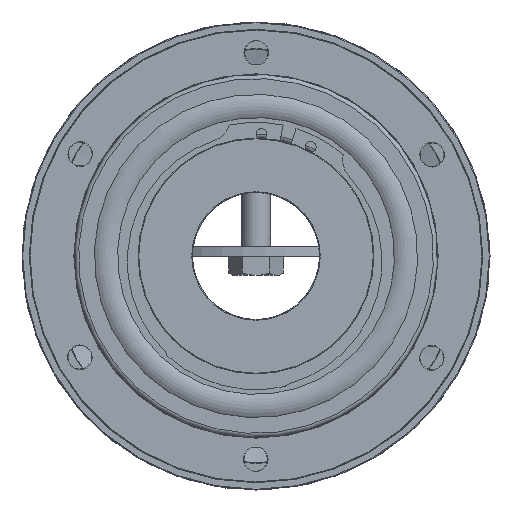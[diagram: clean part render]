
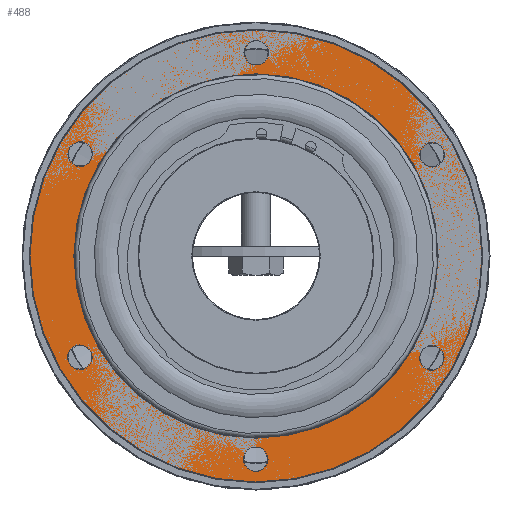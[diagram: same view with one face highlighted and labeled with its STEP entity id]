
A CAD part, left-side view. The second image highlights one B-rep face of the part: STEP entity #488.
In plain terms, the highlighted planar face has unit normal (-1, 0, 0).
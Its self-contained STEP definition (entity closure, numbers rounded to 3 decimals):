
#488 = ADVANCED_FACE( '', ( #973, #974, #975, #976, #977, #978, #979, #980 ), #981, .F. );
#973 = FACE_OUTER_BOUND( '', #1490, .T. );
#974 = FACE_BOUND( '', #1491, .T. );
#975 = FACE_BOUND( '', #1492, .T. );
#976 = FACE_BOUND( '', #1493, .T. );
#977 = FACE_BOUND( '', #1494, .T. );
#978 = FACE_BOUND( '', #1495, .T. );
#979 = FACE_BOUND( '', #1496, .T. );
#980 = FACE_BOUND( '', #1497, .T. );
#981 = PLANE( '', #1498 );
#1490 = EDGE_LOOP( '', ( #2543 ) );
#1491 = EDGE_LOOP( '', ( #2544 ) );
#1492 = EDGE_LOOP( '', ( #2545 ) );
#1493 = EDGE_LOOP( '', ( #2546 ) );
#1494 = EDGE_LOOP( '', ( #2547 ) );
#1495 = EDGE_LOOP( '', ( #2548 ) );
#1496 = EDGE_LOOP( '', ( #2549 ) );
#1497 = EDGE_LOOP( '', ( #2550 ) );
#1498 = AXIS2_PLACEMENT_3D( '', #2551, #2552, #2553 );
#2543 = ORIENTED_EDGE( '', *, *, #2883, .T. );
#2544 = ORIENTED_EDGE( '', *, *, #2884, .T. );
#2545 = ORIENTED_EDGE( '', *, *, #2887, .T. );
#2546 = ORIENTED_EDGE( '', *, *, #2888, .T. );
#2547 = ORIENTED_EDGE( '', *, *, #2889, .T. );
#2548 = ORIENTED_EDGE( '', *, *, #2890, .T. );
#2549 = ORIENTED_EDGE( '', *, *, #2891, .T. );
#2550 = ORIENTED_EDGE( '', *, *, #2892, .T. );
#2551 = CARTESIAN_POINT( '', ( -23.15, 62.5, 0. ) );
#2552 = DIRECTION( '', ( 1., 0., 0. ) );
#2553 = DIRECTION( '', ( 0., 1., 0. ) );
#2883 = EDGE_CURVE( '', #3357, #3357, #3358, .T. );
#2884 = EDGE_CURVE( '', #3359, #3359, #3360, .T. );
#2887 = EDGE_CURVE( '', #3365, #3365, #3366, .T. );
#2888 = EDGE_CURVE( '', #3367, #3367, #3368, .T. );
#2889 = EDGE_CURVE( '', #3369, #3369, #3370, .T. );
#2890 = EDGE_CURVE( '', #3371, #3371, #3372, .T. );
#2891 = EDGE_CURVE( '', #3373, #3373, #3374, .T. );
#2892 = EDGE_CURVE( '', #3375, #3375, #3376, .T. );
#3357 = VERTEX_POINT( '', #4341 );
#3358 = CIRCLE( '', #4342, 62.3 );
#3359 = VERTEX_POINT( '', #4343 );
#3360 = CIRCLE( '', #4344, 50.2 );
#3365 = VERTEX_POINT( '', #4349 );
#3366 = CIRCLE( '', #4350, 3.324 );
#3367 = VERTEX_POINT( '', #4351 );
#3368 = CIRCLE( '', #4352, 3.324 );
#3369 = VERTEX_POINT( '', #4353 );
#3370 = CIRCLE( '', #4354, 3.324 );
#3371 = VERTEX_POINT( '', #4355 );
#3372 = CIRCLE( '', #4356, 3.324 );
#3373 = VERTEX_POINT( '', #4357 );
#3374 = CIRCLE( '', #4358, 3.324 );
#3375 = VERTEX_POINT( '', #4359 );
#3376 = CIRCLE( '', #4360, 3.324 );
#4341 = CARTESIAN_POINT( '', ( -23.15, 0., -62.3 ) );
#4342 = AXIS2_PLACEMENT_3D( '', #4935, #4936, #4937 );
#4343 = CARTESIAN_POINT( '', ( -23.15, 0., -50.2 ) );
#4344 = AXIS2_PLACEMENT_3D( '', #4938, #4939, #4940 );
#4349 = CARTESIAN_POINT( '', ( -23.15, 51.376, 29.662 ) );
#4350 = AXIS2_PLACEMENT_3D( '', #4947, #4948, #4949 );
#4351 = CARTESIAN_POINT( '', ( -23.15, 51.376, -29.662 ) );
#4352 = AXIS2_PLACEMENT_3D( '', #4950, #4951, #4952 );
#4353 = CARTESIAN_POINT( '', ( -23.15, 0., -59.324 ) );
#4354 = AXIS2_PLACEMENT_3D( '', #4953, #4954, #4955 );
#4355 = CARTESIAN_POINT( '', ( -23.15, -51.376, -29.662 ) );
#4356 = AXIS2_PLACEMENT_3D( '', #4956, #4957, #4958 );
#4357 = CARTESIAN_POINT( '', ( -23.15, -51.376, 29.662 ) );
#4358 = AXIS2_PLACEMENT_3D( '', #4959, #4960, #4961 );
#4359 = CARTESIAN_POINT( '', ( -23.15, 0., 59.324 ) );
#4360 = AXIS2_PLACEMENT_3D( '', #4962, #4963, #4964 );
#4935 = CARTESIAN_POINT( '', ( -23.15, 0., 0. ) );
#4936 = DIRECTION( '', ( -1., 0., 0. ) );
#4937 = DIRECTION( '', ( 0., 0., -1. ) );
#4938 = CARTESIAN_POINT( '', ( -23.15, 0., 0. ) );
#4939 = DIRECTION( '', ( 1., 0., 0. ) );
#4940 = DIRECTION( '', ( 0., 0., -1. ) );
#4947 = CARTESIAN_POINT( '', ( -23.15, 48.497, 28. ) );
#4948 = DIRECTION( '', ( 1., 0., 0. ) );
#4949 = DIRECTION( '', ( 0., 0.866, 0.5 ) );
#4950 = CARTESIAN_POINT( '', ( -23.15, 48.497, -28. ) );
#4951 = DIRECTION( '', ( 1., 0., 0. ) );
#4952 = DIRECTION( '', ( 0., 0.866, -0.5 ) );
#4953 = CARTESIAN_POINT( '', ( -23.15, 0., -56. ) );
#4954 = DIRECTION( '', ( 1., 0., 0. ) );
#4955 = DIRECTION( '', ( 0., 0., -1. ) );
#4956 = CARTESIAN_POINT( '', ( -23.15, -48.497, -28. ) );
#4957 = DIRECTION( '', ( 1., 0., 0. ) );
#4958 = DIRECTION( '', ( 0., -0.866, -0.5 ) );
#4959 = CARTESIAN_POINT( '', ( -23.15, -48.497, 28. ) );
#4960 = DIRECTION( '', ( 1., 0., 0. ) );
#4961 = DIRECTION( '', ( 0., -0.866, 0.5 ) );
#4962 = CARTESIAN_POINT( '', ( -23.15, 0., 56. ) );
#4963 = DIRECTION( '', ( 1., 0., 0. ) );
#4964 = DIRECTION( '', ( 0., 0., 1. ) );
